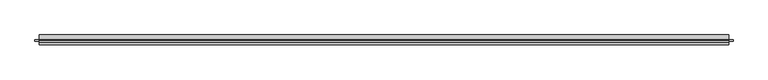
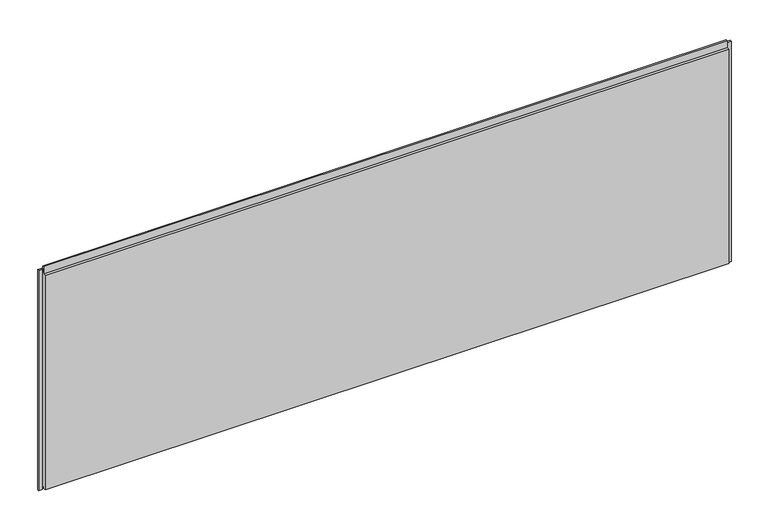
"""IFC4 building model written with IfcOpenShell, lengths in millimetres: plate geometry, Trimo_Qbiss Screen_Normal Panel-HORIZONTAL : HR - B."""

from ifc_helpers import new_model, si_unit, frame, origin, place, context, project, spatial, polyline, outline, extrude, source, transform, mapped, element, save


def plate_b22128cc(model_context):
    return source(origin(), model_context, "Body", "SweptSolid", [
        extrude(outline(polyline([(-1723.0, 76.5978162), (-1723.0, 67.8978162), (-1742.0, 67.8978162), (-1742.0, 76.5978162), (-1723.0, 76.5978162)])), frame((0.0, 0.0, -1.0), z_axis=(0.0, 0.0, 1.0), x_axis=(1.0, 0.0, 0.0)), (0.0, 0.0, 1.0), 1172.5),
        extrude(outline(polyline([(1723.0, 67.8978162), (1723.0, 76.5978162), (1742.0, 76.5978162), (1742.0, 67.8978162), (1723.0, 67.8978162)])), frame((0.0, 0.0, -1.0), z_axis=(0.0, 0.0, 1.0), x_axis=(1.0, 0.0, 0.0)), (0.0, 0.0, 1.0), 1172.5),
        extrude(outline(polyline([(1720.0, 76.0), (1720.0, 71.0), (-1720.0, 71.0), (-1720.0, 76.0), (1720.0, 76.0)])), frame((0.0, 0.0, 1150.5), z_axis=(0.0, 0.0, 1.0), x_axis=(1.0, 0.0, 0.0)), (0.0, 0.0, 1.0), 21.0),
        extrude(outline(polyline([(71.0, 1149.5), (100.0, 1149.5), (100.0, 0.0), (72.0, 0.0), (72.0, 15.5), (62.0, 15.5), (62.0, 7.0), (50.0, 7.0), (50.0, 1149.5), (63.0, 1149.5), (63.0, 1187.0), (71.0, 1187.0), (71.0, 1149.5)])), frame((-1720.0, 0.0, 0.0), z_axis=(1.0, 0.0, 0.0), x_axis=(0.0, 1.0, 0.0)), (0.0, 0.0, 1.0), 3440.0),
    ])


if __name__ == "__main__":
    model = new_model("IFC4")
    model_context = context("Model", 3, world=origin())
    ifc_project = project(units=[si_unit("LENGTHUNIT", "METRE", prefix="MILLI")], contexts=[model_context])
    site = spatial("IfcSite", under=ifc_project)
    building = spatial("IfcBuilding", under=site)
    placement = place(None, origin())
    plate_shape = plate_b22128cc(model_context)
    element("IfcPlate", 1, ObjectType="Trimo_Qbiss Screen_Normal Panel-HORIZONTAL : HR - B", at=placement, inside=building, context=model_context, shape_type="MappedRepresentation", body=[
        mapped(plate_shape, transform((0.0, 0.0, 0.0), x_axis=(1.0, 0.0, 0.0), y_axis=(0.0, 1.0, 0.0), z_axis=(0.0, 0.0, 1.0))),
    ])
    save(model, "model.ifc")
